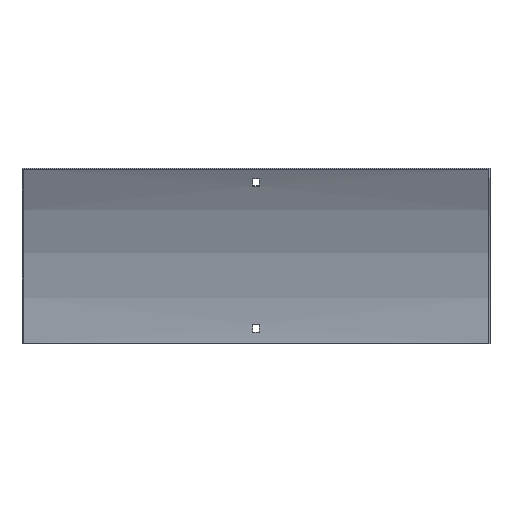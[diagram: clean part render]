
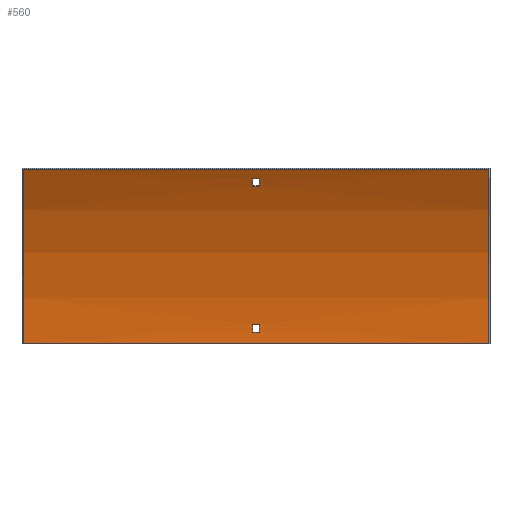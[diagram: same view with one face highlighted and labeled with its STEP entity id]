
A CAD part, front view. The second image highlights one B-rep face of the part: STEP entity #560.
In plain terms, the highlighted cylindrical face has radius 375 mm (diameter 750 mm), a partial arc.
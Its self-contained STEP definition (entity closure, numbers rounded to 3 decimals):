
#4 = AXIS2_PLACEMENT_3D ( 'NONE', #29, #352, #538 ) ;
#10 = CARTESIAN_POINT ( 'NONE',  ( 3.25, -376.5, 0. ) ) ;
#16 = DIRECTION ( 'NONE',  ( -1., 0., 0. ) ) ;
#27 = DIRECTION ( 'NONE',  ( 0., 0., 1. ) ) ;
#29 = CARTESIAN_POINT ( 'NONE',  ( 251.5, -376.5, 0. ) ) ;
#33 = VECTOR ( 'NONE', #509, 1000. ) ;
#34 = CIRCLE ( 'NONE', #426, 375. ) ;
#40 = EDGE_LOOP ( 'NONE', ( #526, #76, #539, #348 ) ) ;
#45 = DIRECTION ( 'NONE',  ( -1., 0., 0. ) ) ;
#46 = DIRECTION ( 'NONE',  ( 1., 0., 0. ) ) ;
#47 = CARTESIAN_POINT ( 'NONE',  ( -3.25, -1.692, 12. ) ) ;
#53 = EDGE_CURVE ( 'NONE', #175, #269, #553, .T. ) ;
#76 = ORIENTED_EDGE ( 'NONE', *, *, #235, .F. ) ;
#77 = DIRECTION ( 'NONE',  ( 0., 0., -1. ) ) ;
#79 = CIRCLE ( 'NONE', #589, 375. ) ;
#80 = EDGE_LOOP ( 'NONE', ( #100, #333, #216, #323 ) ) ;
#84 = EDGE_CURVE ( 'NONE', #251, #266, #598, .T. ) ;
#90 = CARTESIAN_POINT ( 'NONE',  ( -3.25, -41.75, 169.019 ) ) ;
#100 = ORIENTED_EDGE ( 'NONE', *, *, #84, .F. ) ;
#109 = CARTESIAN_POINT ( 'NONE',  ( -3.25, -376.5, 0. ) ) ;
#116 = CARTESIAN_POINT ( 'NONE',  ( 3.25, -2.088, 21. ) ) ;
#121 = CARTESIAN_POINT ( 'NONE',  ( -3.25, -45.907, 177.012 ) ) ;
#130 = CARTESIAN_POINT ( 'NONE',  ( 250., -51.74, 187.5 ) ) ;
#131 = FACE_OUTER_BOUND ( 'NONE', #80, .T. ) ;
#136 = DIRECTION ( 'NONE',  ( 0., 0., -1. ) ) ;
#139 = CIRCLE ( 'NONE', #345, 375. ) ;
#143 = VERTEX_POINT ( 'NONE', #130 ) ;
#146 = CARTESIAN_POINT ( 'NONE',  ( -250., -51.74, 187.5 ) ) ;
#151 = EDGE_CURVE ( 'NONE', #379, #496, #353, .T. ) ;
#160 = CARTESIAN_POINT ( 'NONE',  ( 250., -1.5, 0. ) ) ;
#161 = EDGE_LOOP ( 'NONE', ( #455, #601, #163, #390 ) ) ;
#162 = DIRECTION ( 'NONE',  ( 1., 0., 0. ) ) ;
#163 = ORIENTED_EDGE ( 'NONE', *, *, #196, .T. ) ;
#175 = VERTEX_POINT ( 'NONE', #187 ) ;
#187 = CARTESIAN_POINT ( 'NONE',  ( 3.25, -41.75, 169.019 ) ) ;
#188 = DIRECTION ( 'NONE',  ( -1., 0., 0. ) ) ;
#190 = VECTOR ( 'NONE', #415, 1000. ) ;
#196 = EDGE_CURVE ( 'NONE', #451, #206, #412, .T. ) ;
#200 = AXIS2_PLACEMENT_3D ( 'NONE', #209, #274, #77 ) ;
#206 = VERTEX_POINT ( 'NONE', #232 ) ;
#209 = CARTESIAN_POINT ( 'NONE',  ( -250., -376.5, 0. ) ) ;
#214 = FACE_BOUND ( 'NONE', #40, .T. ) ;
#215 = EDGE_CURVE ( 'NONE', #206, #175, #398, .T. ) ;
#216 = ORIENTED_EDGE ( 'NONE', *, *, #407, .T. ) ;
#224 = CARTESIAN_POINT ( 'NONE',  ( -250., -1.5, 0. ) ) ;
#225 = DIRECTION ( 'NONE',  ( 0., 0., 1. ) ) ;
#232 = CARTESIAN_POINT ( 'NONE',  ( 3.25, -45.907, 177.012 ) ) ;
#233 = VERTEX_POINT ( 'NONE', #47 ) ;
#235 = EDGE_CURVE ( 'NONE', #496, #487, #554, .T. ) ;
#237 = LINE ( 'NONE', #421, #337 ) ;
#244 = EDGE_CURVE ( 'NONE', #143, #266, #365, .T. ) ;
#251 = VERTEX_POINT ( 'NONE', #224 ) ;
#260 = CYLINDRICAL_SURFACE ( 'NONE', #4, 375. ) ;
#266 = VERTEX_POINT ( 'NONE', #146 ) ;
#269 = VERTEX_POINT ( 'NONE', #90 ) ;
#274 = DIRECTION ( 'NONE',  ( 1., 0., 0. ) ) ;
#281 = EDGE_CURVE ( 'NONE', #529, #251, #237, .T. ) ;
#298 = EDGE_CURVE ( 'NONE', #269, #451, #139, .T. ) ;
#323 = ORIENTED_EDGE ( 'NONE', *, *, #244, .T. ) ;
#325 = CARTESIAN_POINT ( 'NONE',  ( 251.5, -45.907, 177.012 ) ) ;
#333 = ORIENTED_EDGE ( 'NONE', *, *, #281, .F. ) ;
#337 = VECTOR ( 'NONE', #188, 1000. ) ;
#345 = AXIS2_PLACEMENT_3D ( 'NONE', #373, #361, #136 ) ;
#348 = ORIENTED_EDGE ( 'NONE', *, *, #394, .F. ) ;
#352 = DIRECTION ( 'NONE',  ( -1., 0., 0. ) ) ;
#353 = CIRCLE ( 'NONE', #503, 375. ) ;
#358 = CARTESIAN_POINT ( 'NONE',  ( 251.5, -41.75, 169.019 ) ) ;
#361 = DIRECTION ( 'NONE',  ( 1., 0., 0. ) ) ;
#362 = AXIS2_PLACEMENT_3D ( 'NONE', #10, #45, #225 ) ;
#365 = LINE ( 'NONE', #561, #448 ) ;
#371 = CARTESIAN_POINT ( 'NONE',  ( 3.25, -1.692, 12. ) ) ;
#373 = CARTESIAN_POINT ( 'NONE',  ( -3.25, -376.5, 0. ) ) ;
#379 = VERTEX_POINT ( 'NONE', #371 ) ;
#390 = ORIENTED_EDGE ( 'NONE', *, *, #215, .T. ) ;
#394 = EDGE_CURVE ( 'NONE', #233, #379, #466, .T. ) ;
#398 = CIRCLE ( 'NONE', #362, 375. ) ;
#404 = FACE_BOUND ( 'NONE', #161, .T. ) ;
#407 = EDGE_CURVE ( 'NONE', #529, #143, #79, .T. ) ;
#412 = LINE ( 'NONE', #325, #33 ) ;
#415 = DIRECTION ( 'NONE',  ( -1., 0., 0. ) ) ;
#421 = CARTESIAN_POINT ( 'NONE',  ( 250., -1.5, 0. ) ) ;
#426 = AXIS2_PLACEMENT_3D ( 'NONE', #109, #16, #27 ) ;
#448 = VECTOR ( 'NONE', #566, 1000. ) ;
#451 = VERTEX_POINT ( 'NONE', #121 ) ;
#455 = ORIENTED_EDGE ( 'NONE', *, *, #53, .T. ) ;
#459 = DIRECTION ( 'NONE',  ( -1., 0., 0. ) ) ;
#466 = LINE ( 'NONE', #557, #577 ) ;
#472 = VECTOR ( 'NONE', #459, 1000. ) ;
#482 = DIRECTION ( 'NONE',  ( 0., 0., -1. ) ) ;
#487 = VERTEX_POINT ( 'NONE', #530 ) ;
#491 = EDGE_CURVE ( 'NONE', #487, #233, #34, .T. ) ;
#496 = VERTEX_POINT ( 'NONE', #116 ) ;
#499 = DIRECTION ( 'NONE',  ( 1., 0., 0. ) ) ;
#501 = CARTESIAN_POINT ( 'NONE',  ( 251.5, -2.088, 21. ) ) ;
#503 = AXIS2_PLACEMENT_3D ( 'NONE', #545, #499, #595 ) ;
#509 = DIRECTION ( 'NONE',  ( 1., 0., 0. ) ) ;
#526 = ORIENTED_EDGE ( 'NONE', *, *, #491, .F. ) ;
#529 = VERTEX_POINT ( 'NONE', #160 ) ;
#530 = CARTESIAN_POINT ( 'NONE',  ( -3.25, -2.088, 21. ) ) ;
#538 = DIRECTION ( 'NONE',  ( 0., 0., 1. ) ) ;
#539 = ORIENTED_EDGE ( 'NONE', *, *, #151, .F. ) ;
#545 = CARTESIAN_POINT ( 'NONE',  ( 3.25, -376.5, 0. ) ) ;
#553 = LINE ( 'NONE', #358, #472 ) ;
#554 = LINE ( 'NONE', #501, #190 ) ;
#557 = CARTESIAN_POINT ( 'NONE',  ( 251.5, -1.692, 12. ) ) ;
#560 = ADVANCED_FACE ( 'NONE', ( #214, #131, #404 ), #260, .F. ) ;
#561 = CARTESIAN_POINT ( 'NONE',  ( 250., -51.74, 187.5 ) ) ;
#566 = DIRECTION ( 'NONE',  ( -1., 0., 0. ) ) ;
#573 = CARTESIAN_POINT ( 'NONE',  ( 250., -376.5, 0. ) ) ;
#577 = VECTOR ( 'NONE', #46, 1000. ) ;
#589 = AXIS2_PLACEMENT_3D ( 'NONE', #573, #162, #482 ) ;
#595 = DIRECTION ( 'NONE',  ( 0., 0., -1. ) ) ;
#598 = CIRCLE ( 'NONE', #200, 375. ) ;
#601 = ORIENTED_EDGE ( 'NONE', *, *, #298, .T. ) ;
